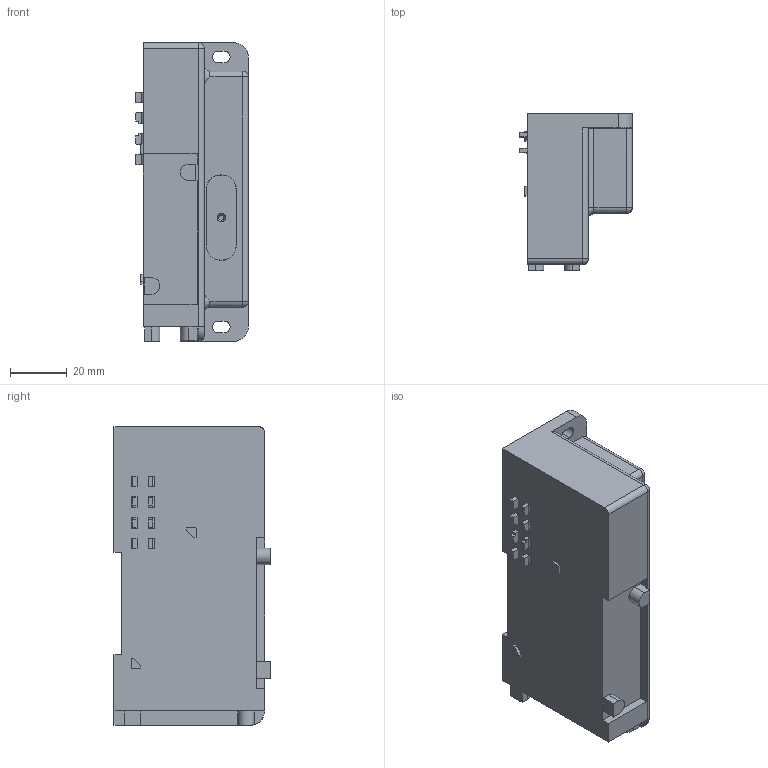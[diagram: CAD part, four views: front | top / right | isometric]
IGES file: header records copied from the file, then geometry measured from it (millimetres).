
Start section: ------------------------------------------------------------------------
Global section: file name: D:\ICADMX\tmp\trans3d_spg\CVICAD02.4564.F15ZX-RN_16531.igs; native system: spGate; preprocessor: ver12.6.6; author: Unknown; organization: Unknown; date: 210712.184728; units: millimetre
Bounding box: 39.6 x 55.1 x 105 mm (x, y, z)
Volume: 154361.8 mm3; surface area: 23949.6 mm2
Topology: 2 solids, 2 shells, 215 faces, 549 edges, 358 vertices
Faces by surface type: bspline 215
